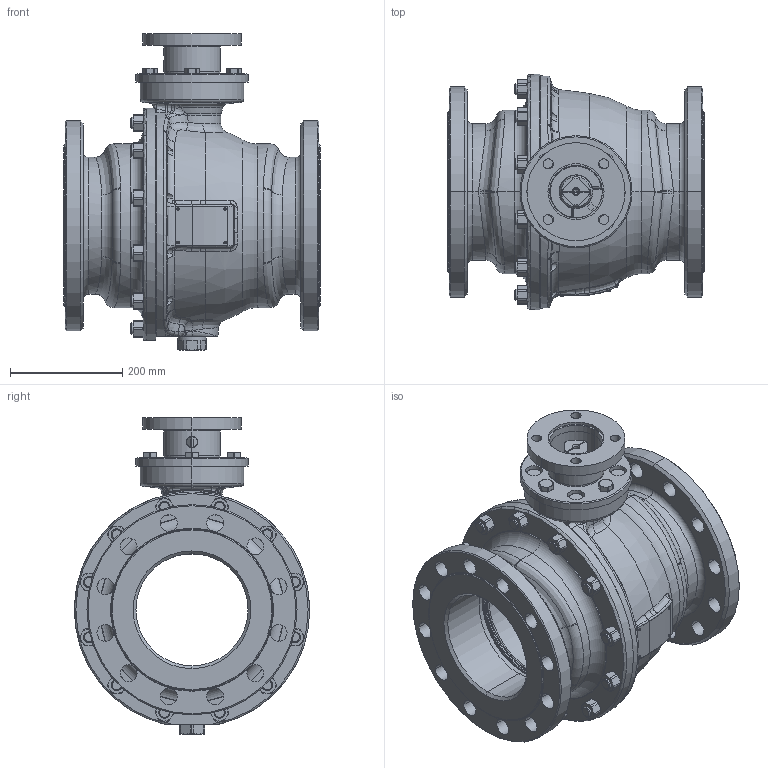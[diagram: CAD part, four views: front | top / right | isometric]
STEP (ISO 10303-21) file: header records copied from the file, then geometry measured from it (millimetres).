
FILE_DESCRIPTION((''),'2;1');
FILE_NAME('KHIFL200VFL200P040MKK_SW0001','2015-08-11T',('schwaba'),('RAND'),'PRO/ENGINEER BY PARAMETRIC TECHNOLOGY CORPORATION, 2013410','PRO/ENGINEER BY PARAMETRIC TECHNOLOGY CORPORATION, 2013410','');
FILE_SCHEMA(('CONFIG_CONTROL_DESIGN'));
Products named in the file (1): KHIFL200VFL200P040MKK_SW0001
Bounding box: 457 x 419.95 x 564.5 mm (x, y, z)
Volume: 20151152.8 mm3; surface area: 2386506.2 mm2
Topology: 1 solids, 7 shells, 1595 faces, 3891 edges, 2357 vertices
Faces by surface type: cylinder 447, cone 386, plane 343, bspline 262, torus 140, sphere 17
Entity records: 122098 total; most frequent: CARTESIAN_POINT 86144, ORIENTED_EDGE 7754, DIRECTION 7409, EDGE_CURVE 3877, AXIS2_PLACEMENT_3D 3221, VERTEX_POINT 2357, CIRCLE 1888, EDGE_LOOP 1748
